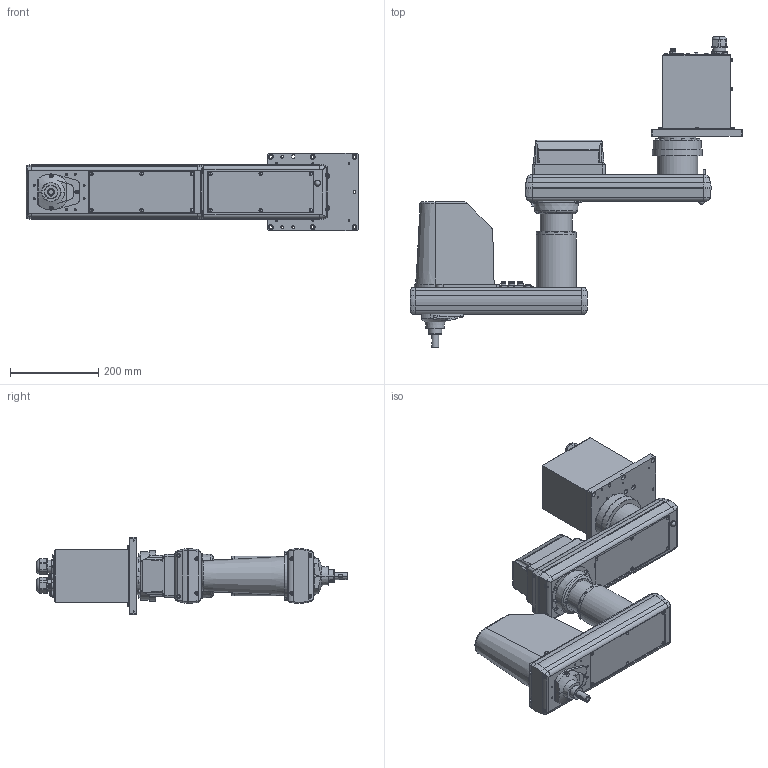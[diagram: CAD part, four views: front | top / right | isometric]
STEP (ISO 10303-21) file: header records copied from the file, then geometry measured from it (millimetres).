
FILE_DESCRIPTION( ( '' ), '1' );
FILE_NAME( '//expscmdclustefs.cadenas.external/client_exchange/iodir/jobs/output/wkb51537185_no0/STEP/RS4_551S_2_03.stp', '2012-11-23T09:48:47', ( '' ), ( '' ), ' ', ' ', ' ' );
FILE_SCHEMA( ( 'CONFIG_CONTROL_DESIGN' ) );
Length unit declared in the file: millimetre
Products named in the file (4): 1; 2; 3; 4
Bounding box: 754 x 705 x 175 mm (x, y, z)
Volume: 15056157.2 mm3; surface area: 780728.1 mm2
Topology: 4 solids, 6 shells, 2100 faces, 5145 edges, 3301 vertices
Faces by surface type: plane 1108, cylinder 591, cone 252, torus 148, sphere 1
Entity records: 63570 total; most frequent: CARTESIAN_POINT 12533, DIRECTION 11080, ORIENTED_EDGE 10186, EDGE_CURVE 5093, AXIS2_PLACEMENT_3D 4006, VERTEX_POINT 3301, LINE 3068, VECTOR 3068
